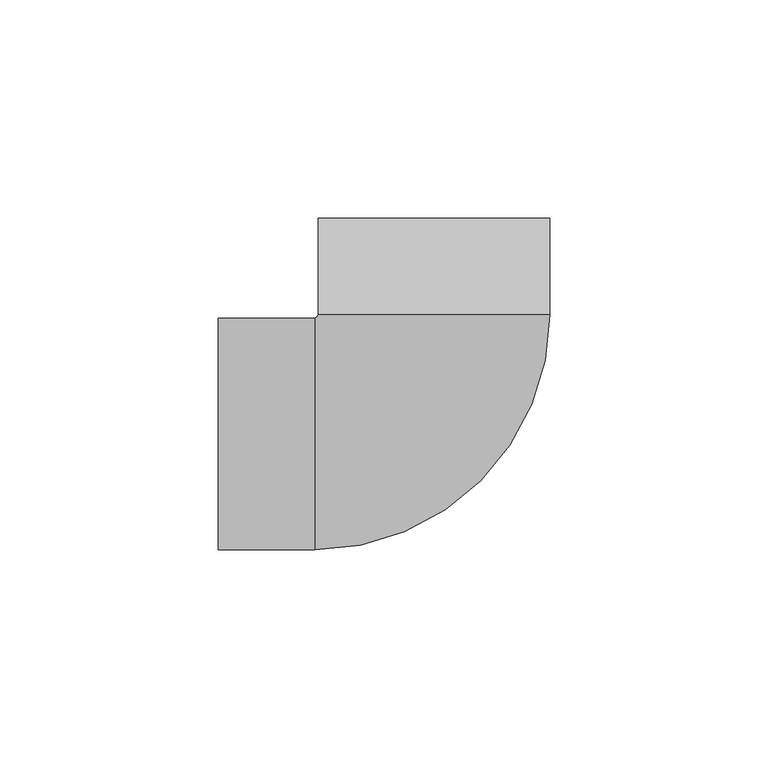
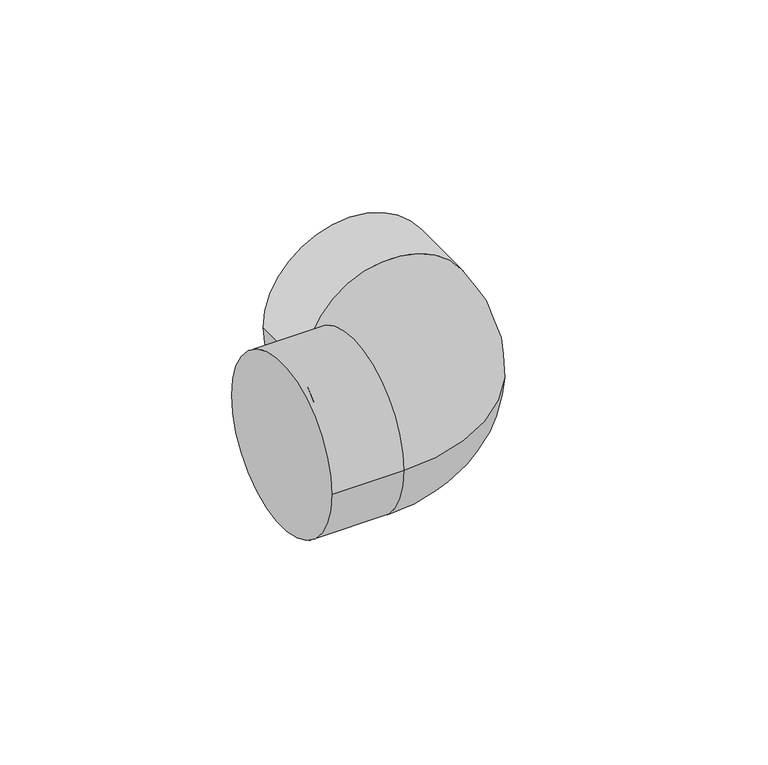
"""IFC4 building model written with IfcOpenShell, lengths in millimetres: pipe fitting geometry, NIRON RED termofusion codo : Estándar."""

from ifc_helpers import new_model, si_unit, point, frame, origin, place, context, project, spatial, circle_curve, ellipse_curve, trimmed, source, transform, mapped, element, save
from ifc_brep_helpers import plane_surface, cylinder_surface, revolved_surface, advanced_brep


def pipe_fitting_8018cb72(model_context):
    return source(origin(), model_context, "Body", "AdvancedBrep", [
        advanced_brep(
        [(-49.29375, -26.5, 0.0), (-49.29375, 26.5, 0.0), (-27.29375, -26.5, 0.0), (-27.29375, 26.5, 0.0), (-26.5, 27.29375, 0.0), (26.5, 27.29375, 0.0), (26.5, 49.29375, 0.0), (-26.5, 49.29375, 0.0)],
        [
            (0, 1, circle_curve(frame((-49.29375, 0.0, 0.0), z_axis=(-1.0, 0.0, 0.0), x_axis=(0.0, 1.0, 0.0)), 26.5)),
            (1, 0, circle_curve(frame((-49.29375, 0.0, 0.0), z_axis=(-1.0, 0.0, 0.0), x_axis=(0.0, 1.0, 0.0)), 26.5)),
            (0, 2),
            (2, 3, circle_curve(frame((-27.29375, 0.0, 0.0), z_axis=(-1.0, 0.0, 0.0), x_axis=(0.0, 1.0, 0.0)), 26.5)),
            (3, 1),
            (3, 2, circle_curve(frame((-27.29375, 0.0, 0.0), z_axis=(-1.0, 0.0, 0.0), x_axis=(0.0, 1.0, 0.0)), 26.5)),
            (4, 3, circle_curve(frame((-27.29375, 27.29375, 0.0), z_axis=(0.0, 0.0, -1.0), x_axis=(0.0, -1.0, 0.0)), 0.79375)),
            (2, 5, circle_curve(frame((-27.29375, 27.29375, 0.0), z_axis=(0.0, 0.0, 1.0), x_axis=(0.0, -1.0, 0.0)), 53.79375)),
            (5, 4, circle_curve(frame((0.0, 27.29375, 0.0), z_axis=(0.0, -1.0, 0.0), x_axis=(-1.0, 0.0, 0.0)), 26.5)),
            (4, 5, circle_curve(frame((0.0, 27.29375, 0.0), z_axis=(0.0, -1.0, 0.0), x_axis=(-1.0, 0.0, 0.0)), 26.5)),
            (6, 7, circle_curve(frame((0.0, 49.29375, 0.0), z_axis=(0.0, 1.0, 0.0), x_axis=(-1.0, 0.0, 0.0)), 26.5)),
            (7, 6, circle_curve(frame((0.0, 49.29375, 0.0), z_axis=(0.0, 1.0, 0.0), x_axis=(-1.0, 0.0, 0.0)), 26.5)),
            (7, 4),
            (5, 6),
        ],
        [
            plane_surface(frame((-49.29375, 0.0, 0.0), z_axis=(-1.0, 0.0, 0.0), x_axis=(0.0, 0.0, 1.0))),
            cylinder_surface(frame((-49.29375, 0.0, 0.0), z_axis=(-1.0, 0.0, 0.0), x_axis=(0.0, 1.0, 0.0)), 26.5),
            revolved_surface(trimmed(ellipse_curve(frame((-27.29375, 0.0, 0.0), z_axis=(-1.0, 0.0, 0.0), x_axis=(0.0, 1.0, 0.0)), 26.5, 26.5), [point((-27.29375, -26.5, 0.0))], [point((-27.29375, 26.5, 0.0))], True, "CARTESIAN"), (-27.29375, 27.29375, 0.0), (0.0, 0.0, 1.0)),
            revolved_surface(trimmed(ellipse_curve(frame((-27.29375, 0.0, 0.0), z_axis=(-1.0, 0.0, 0.0), x_axis=(0.0, 1.0, 0.0)), 26.5, 26.5), [point((-27.29375, 26.5, 0.0))], [point((-27.29375, -26.5, 0.0))], True, "CARTESIAN"), (-27.29375, 27.29375, 0.0), (0.0, 0.0, 1.0)),
            plane_surface(frame((0.0, 49.29375, 0.0), z_axis=(0.0, 1.0, 0.0), x_axis=(0.0, 0.0, 1.0))),
            cylinder_surface(frame((0.0, 27.29375, 0.0), z_axis=(0.0, -1.0, 0.0), x_axis=(-1.0, 0.0, 0.0)), 26.5),
        ],
        [
            (0, [[1, 2]]),
            (1, [[-1, 3, 4, 5]]),
            (1, [[-2, -5, 6, -3]]),
            (2, [[7, -4, 8, 9]]),
            (3, [[-7, 10, -8, -6]]),
            (4, [[11, 12]]),
            (5, [[-12, 13, -9, 14]]),
            (5, [[-11, -14, -10, -13]]),
        ],
    ),
    ])


if __name__ == "__main__":
    model = new_model("IFC4")
    model_context = context("Model", 3, world=origin())
    ifc_project = project(units=[si_unit("LENGTHUNIT", "METRE", prefix="MILLI")], contexts=[model_context])
    site = spatial("IfcSite", under=ifc_project)
    building = spatial("IfcBuilding", under=site)
    placement = place(None, origin())
    pipe_fitting_shape = pipe_fitting_8018cb72(model_context)
    element("IfcPipeFitting", 1, ObjectType="NIRON RED termofusion codo : Estándar", at=placement, inside=building, context=model_context, shape_type="MappedRepresentation", body=[
        mapped(pipe_fitting_shape, transform((0.0, 0.0, 0.0), x_axis=(1.0, 0.0, 0.0), y_axis=(0.0, 1.0, 0.0), z_axis=(0.0, 0.0, 1.0))),
    ])
    save(model, "model.ifc")
